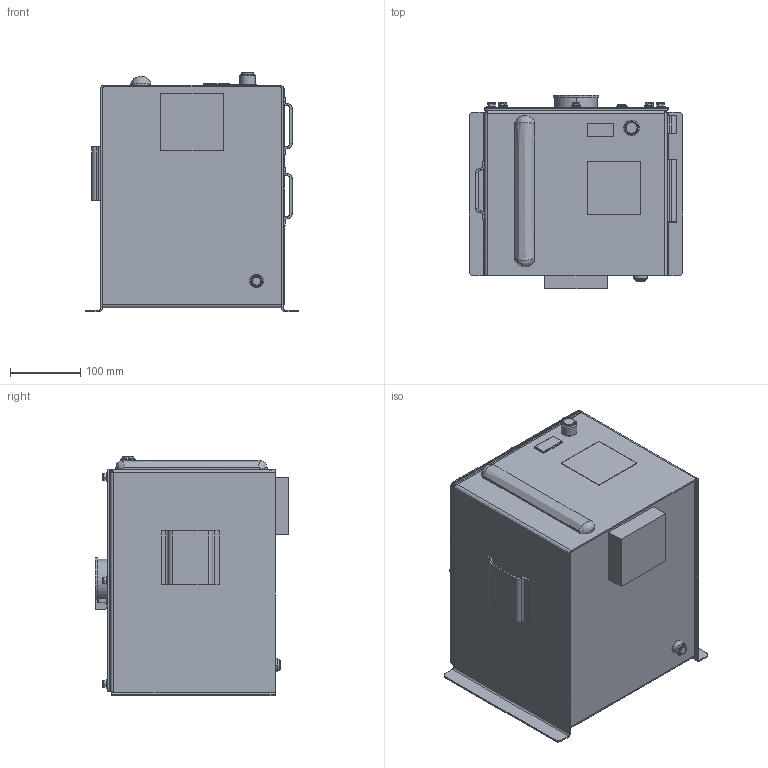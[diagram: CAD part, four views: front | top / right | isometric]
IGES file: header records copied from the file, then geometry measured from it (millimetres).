
Start section:  PTC IGES file: 563320-en-f.igs
Global section: file name: 563320-en-f.igs; native system: Creo Parametric by PTC Inc.; preprocessor: 2019030; author: qusrh3; organization: Unknown; date: 20191231.213509; units: inch
Bounding box: 304.8 x 276.29 x 341.38 mm (x, y, z)
Surface area: 1195778.2 mm2 (no closed solid volume)
Topology: 0 solids, 0 shells, 708 faces, 3091 edges, 3091 vertices
Faces by surface type: bspline 374, revolution 334
